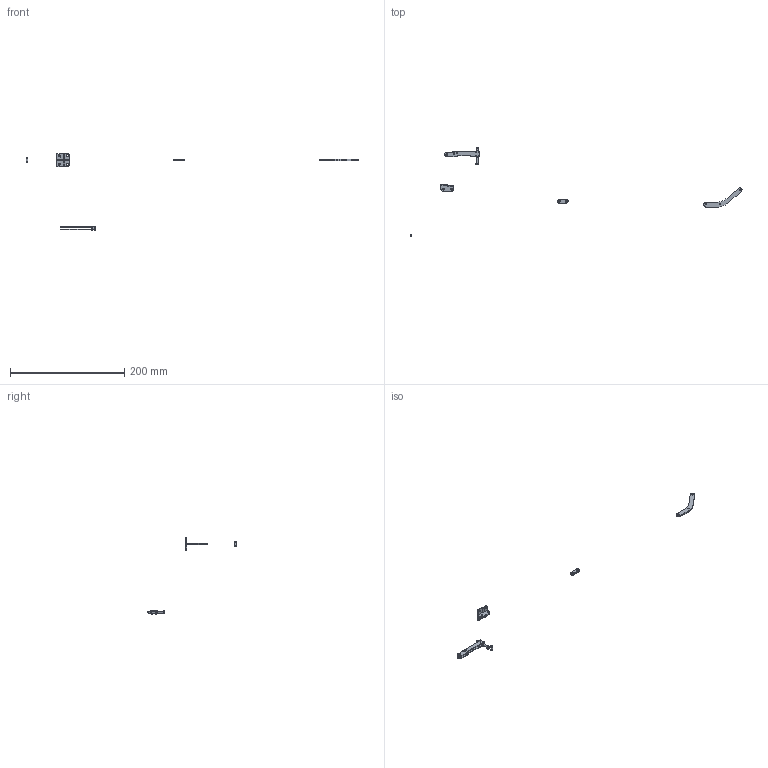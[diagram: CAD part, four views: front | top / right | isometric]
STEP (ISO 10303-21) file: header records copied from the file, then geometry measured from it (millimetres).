
FILE_DESCRIPTION(/* description */ (''),/* implementation_level */ '2;1');
FILE_NAME(/* name */ 'C:\Users\Nick\Desktop\J-400\3D\J-400.stp',/* time_stamp */ '2015-09-09T13:38:07-04:00',/* author */ ('Nick'),/* organization */ (''),/* preprocessor_version */ 'ST-DEVELOPER v16.1',/* originating_system */ 'AutoCAD Mechanical',/* authorisation */ '');
FILE_SCHEMA (('AUTOMOTIVE_DESIGN { 1 0 10303 214 3 1 1 }'));
Length unit declared in the file: centimetre
Products named in the file (1): Product
Bounding box: 580.28 x 154.37 x 134.46 mm (x, y, z)
Volume: 5058.8 mm3; surface area: 8898.8 mm2
Topology: 19 solids, 19 shells, 241 faces, 573 edges, 373 vertices
Faces by surface type: plane 125, cylinder 77, cone 39
Full cylindrical faces by diameter (mm): 1.533 x1, 1.56 x2, 1.87 x2, 2.5 x4, 2.52 x2, 2.54 x6, 2.631 x1, 2.645 x2, 2.66 x4, 3.125 x5, 3.14 x2, 3.16 x2, 3.184 x2, 3.28 x2
Entity records: 6785 total; most frequent: CARTESIAN_POINT 1257, DIRECTION 1151, ORIENTED_EDGE 1042, EDGE_CURVE 521, AXIS2_PLACEMENT_3D 445, VERTEX_POINT 365, EDGE_LOOP 348, LINE 261
